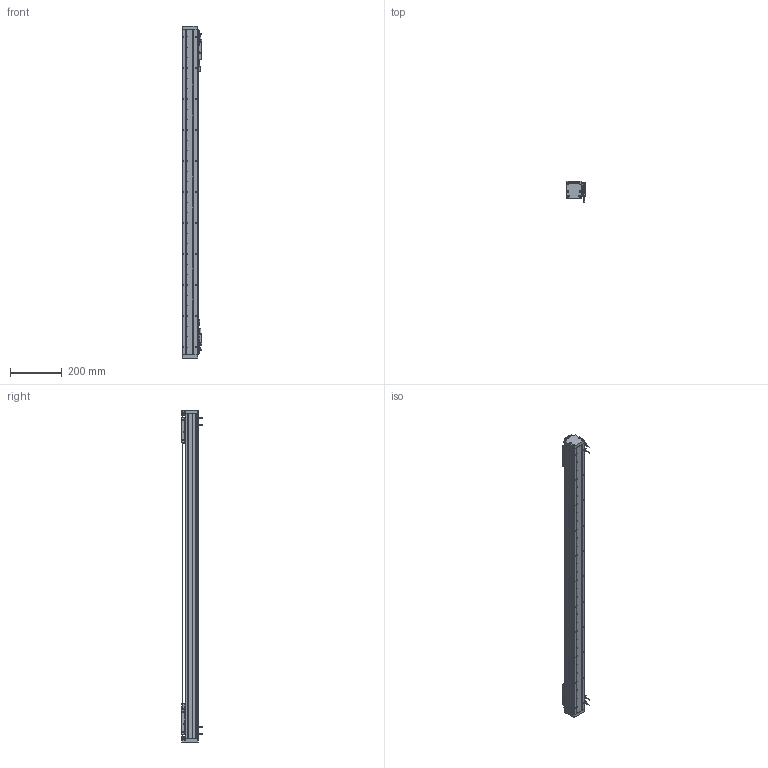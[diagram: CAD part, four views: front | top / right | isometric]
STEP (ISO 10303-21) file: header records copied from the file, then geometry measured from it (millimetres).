
FILE_DESCRIPTION (( 'STEP AP203' ), '1' );
FILE_NAME ('DA-A60-2-B1-T1020-C010-0.2 眻盄萇儂.STEP', '2025-08-13T01:25:25', ( '' ), ( '' ), 'SwSTEP 2.0', 'SolidWorks 2019', '' );
FILE_SCHEMA (( 'CONFIG_CONTROL_DESIGN' ));
Length unit declared in the file: millimetre
Products named in the file (30): 葩璃 DA60-DMT-DTJ-00 黍杅芛盓殤^DA-A60-2-B1-T60-C010-0.2-N; AU60-V 幗紩賑怢-1; 葩璃 鞠褒情蹟譫 M3^DA-A60-2-B1-T60-C010-0.2-N(GB_FASTENER_NUT_STNAB M3-C); DA60-YT-B1-HT-B-01 珨极趙賑雄怢啣; ｸｴｼ DA60-GYP-ZJ-01 ﾖﾐｼ荵箏邵ﾐﾓｦﾆｬ^DA-A60-2-B1-T60-C010-0.2-N(ﾄｬﾈﾏ); DA60-B1-HT-B-03 賑雄怢啣; ｸｴｼ DA-A60-GYP-DMT-00 ｹ箏邵ﾐﾓｦﾆｬ^DA-A60-2-B1-T60-C010-0.2-N(ﾄｬﾈﾏ); AU60-V 幗紩賑怢; IU-AU60-L-00 菁釱(1260); 葩璃 PM-Y65^DA-A60-2-B1-T60-C010-0.2-N; AU60-L 菁釱絳寢; 13679-0000-004-00 傷啣; 葩璃 AKM01-W030-TRL^DA-A60-2-B1-T60-C010-0.2-N; 复件 DA60-B1-GT-00 滑块钢轨^DA60-YT-B1-HT-B-01 一体化滑动台板; 复件 DA60-HC-XJ-01 中间缓冲橡胶^DA-A60-2-B1-T60-C010-0.2-N; 葩璃 XD-U-02  棠掑喜^DA-A60-2-B1-T60-C010-0.2-N; 复件 纯铜油杯 6x6mm^AU60-V 滚珠滑台; DA-A60-2-B1-T1020-C010-0.2 眻盄萇儂; 葩璃 PM-T45^DA-A60-2-B1-T60-C010-0.2-N; 13679-0000-005-00 詩湍嶺輸; DA60-YT-B1-HT-B-01 珨极趙賑雄怢啣-1; 13679-0000-006-00  钢带压块(默认); 葩璃 DMT-010 1米m 0.2M^DA-A60-2-B1-T60-C010-0.2-N; DA60嶺詩湍郪璃-T1060; 葩璃 DA60-HK-DP-01 結え^AU60-V 幗紩賑怢; DA60-XJ-00 砎蝶結輸; ｸｴｼ DA60-DMT-DTJ-ZJ-00 ﾖﾐｼ荼ﾁﾊﾍｷﾖｧｼﾜ^DA-A60-2-B1-T60-C010-0.2-N; 复件 DA60-GT-T-00 底座钢轨^AU60-L 底座导轨; ｸｴｼ BAKM01-W030-C1-TP-0.2 ﾖｱﾏﾟｵ扈巐ｯﾗﾓ^DA-A60-2-B1-T60-C010-0.2-N; DA-A60-GD-1020-00 钢带盖板(默认)
Assembly tree (56 placements, depth 4):
  DA-A60-2-B1-T1020-C010-0.2 眻盄萇儂
    AU60-L 菁釱絳寢
      IU-AU60-L-00 菁釱(1260)
      复件 DA60-GT-T-00 底座钢轨^AU60-L 底座导轨  x2
    AU60-V 幗紩賑怢
      DA60-YT-B1-HT-B-01 珨极趙賑雄怢啣
        DA60-B1-HT-B-03 賑雄怢啣
        复件 DA60-B1-GT-00 滑块钢轨^DA60-YT-B1-HT-B-01 一体化滑动台板  x2
      葩璃 DA60-HK-DP-01 結え^AU60-V 幗紩賑怢  x2
      复件 纯铜油杯 6x6mm^AU60-V 滚珠滑台
    AU60-V 幗紩賑怢-1
      DA60-YT-B1-HT-B-01 珨极趙賑雄怢啣-1
        DA60-B1-HT-B-03 賑雄怢啣
        复件 DA60-B1-GT-00 滑块钢轨^DA60-YT-B1-HT-B-01 一体化滑动台板  x2
      葩璃 DA60-HK-DP-01 結え^AU60-V 幗紩賑怢  x2
      复件 纯铜油杯 6x6mm^AU60-V 滚珠滑台
    DA60嶺詩湍郪璃-T1060
      13679-0000-006-00  钢带压块(默认)  x2
      DA-A60-GD-1020-00 钢带盖板(默认)
      13679-0000-004-00 傷啣  x2
      DA60-XJ-00 砎蝶結輸  x2
      13679-0000-005-00 詩湍嶺輸  x2
    ｸｴｼ DA60-DMT-DTJ-ZJ-00 ﾖﾐｼ荼ﾁﾊﾍｷﾖｧｼﾜ^DA-A60-2-B1-T60-C010-0.2-N
    葩璃 PM-Y65^DA-A60-2-B1-T60-C010-0.2-N
    复件 DA60-HC-XJ-01 中间缓冲橡胶^DA-A60-2-B1-T60-C010-0.2-N  x2
    ｸｴｼ DA60-GYP-ZJ-01 ﾖﾐｼ荵箏邵ﾐﾓｦﾆｬ^DA-A60-2-B1-T60-C010-0.2-N(ﾄｬﾈﾏ)
    ｸｴｼ DA-A60-GYP-DMT-00 ｹ箏邵ﾐﾓｦﾆｬ^DA-A60-2-B1-T60-C010-0.2-N(ﾄｬﾈﾏ)  x2
    葩璃 DA60-DMT-DTJ-00 黍杅芛盓殤^DA-A60-2-B1-T60-C010-0.2-N
    葩璃 DMT-010 1米m 0.2M^DA-A60-2-B1-T60-C010-0.2-N  x2
    ｸｴｼ BAKM01-W030-C1-TP-0.2 ﾖｱﾏﾟｵ扈巐ｯﾗﾓ^DA-A60-2-B1-T60-C010-0.2-N  x2
    葩璃 AKM01-W030-TRL^DA-A60-2-B1-T60-C010-0.2-N
    葩璃 PM-T45^DA-A60-2-B1-T60-C010-0.2-N  x4
    葩璃 XD-U-02  棠掑喜^DA-A60-2-B1-T60-C010-0.2-N
    葩璃 鞠褒情蹟譫 M3^DA-A60-2-B1-T60-C010-0.2-N(GB_FASTENER_NUT_STNAB M3-C)  x8
Bounding box: 76.95 x 80 x 1284 mm (x, y, z)
Volume: 2657059.4 mm3; surface area: 957875.3 mm2
Topology: 61 solids, 65 shells, 3095 faces, 8407 edges, 5348 vertices
Faces by surface type: plane 1516, cylinder 1267, cone 280, bspline 22, torus 8, sphere 2
Entity records: 76318 total; most frequent: CARTESIAN_POINT 17705, ORIENTED_EDGE 11660, DIRECTION 11106, EDGE_CURVE 5830, AXIS2_PLACEMENT_3D 3796, VERTEX_POINT 3794, LINE 3514, VECTOR 3514
